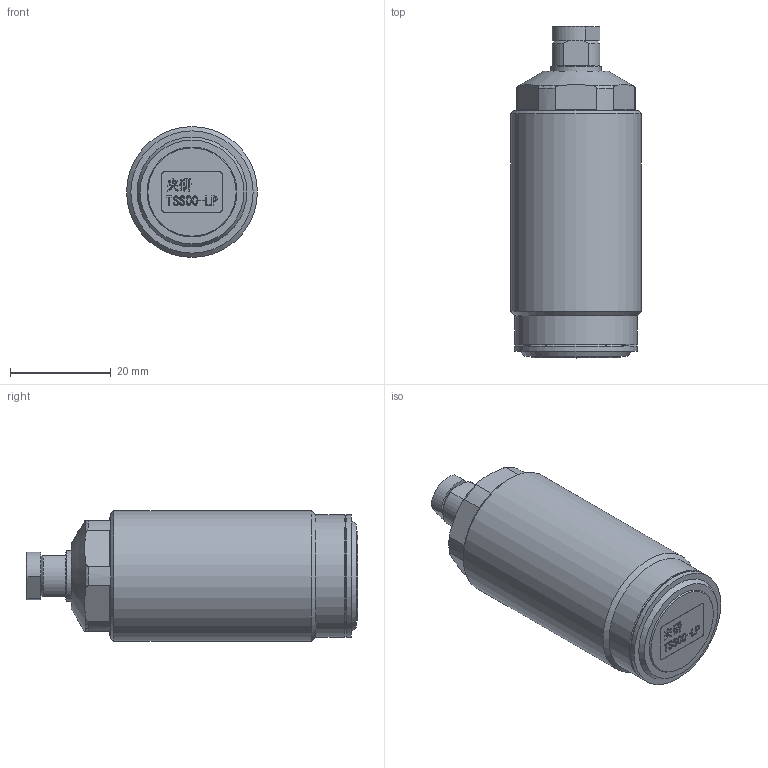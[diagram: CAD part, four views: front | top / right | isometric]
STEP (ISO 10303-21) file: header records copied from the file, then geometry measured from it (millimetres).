
FILE_DESCRIPTION(/* description */ (''),/* implementation_level */ '2;1');
FILE_NAME(/* name */ 'TSS00-LP.stp',/* time_stamp */ '2022-05-04T14:40:12+08:00',/* author */ (''),/* organization */ (''),/* preprocessor_version */ 'ST-DEVELOPER v16.7',/* originating_system */ 'SIEMENS PLM Software NX 12.0',/* authorisation */ '');
FILE_SCHEMA (('AUTOMOTIVE_DESIGN { 1 0 10303 214 3 1 1 1 }'));
Length unit declared in the file: millimetre
Products named in the file (1): TSS00-LP
Bounding box: 26 x 65.96 x 26 mm (x, y, z)
Volume: 28575.3 mm3; surface area: 7728.5 mm2
Topology: 3 solids, 3 shells, 243 faces, 615 edges, 404 vertices
Faces by surface type: plane 134, extrusion 66, cylinder 19, torus 12, cone 11, sphere 1
Full cylindrical faces by diameter (mm): 3.5 x1, 4.5 x1, 6 x2, 7.3 x1, 10 x2, 23.5 x1, 24.3 x2, 26 x1
Entity records: 9686 total; most frequent: CARTESIAN_POINT 2960, ORIENTED_EDGE 1162, DIRECTION 923, EDGE_CURVE 581, VECTOR 419, VERTEX_POINT 400, LINE 353, EDGE_LOOP 299
